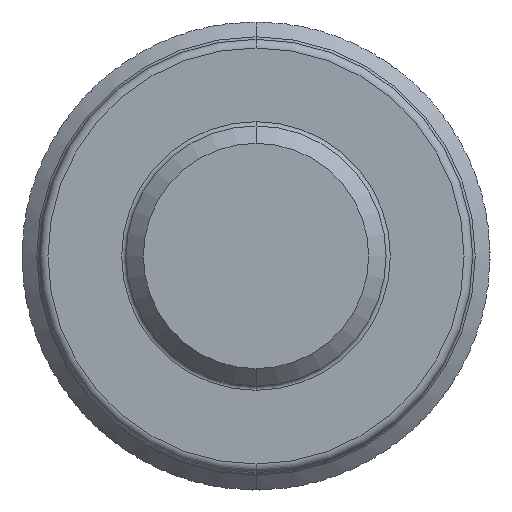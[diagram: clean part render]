
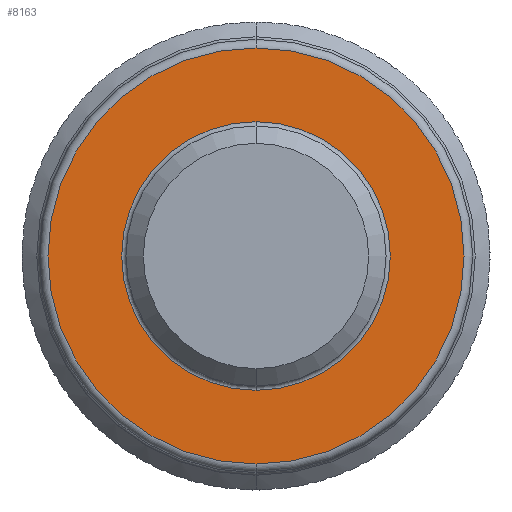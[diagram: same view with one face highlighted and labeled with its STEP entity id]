
A CAD part, front view. The second image highlights one B-rep face of the part: STEP entity #8163.
In plain terms, the highlighted planar face has unit normal (0, -1, 0).
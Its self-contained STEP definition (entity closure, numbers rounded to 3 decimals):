
#268 = DIRECTION ( 'NONE',  ( 0., -1., 0. ) ) ;
#270 = CARTESIAN_POINT ( 'NONE',  ( 0., -3., 2.4 ) ) ;
#497 = EDGE_CURVE ( 'NONE', #1748, #3590, #8521, .T. ) ;
#602 = AXIS2_PLACEMENT_3D ( 'NONE', #2908, #4521, #9182 ) ;
#1132 = DIRECTION ( 'NONE',  ( 0., -1., 0. ) ) ;
#1434 = ORIENTED_EDGE ( 'NONE', *, *, #7921, .T. ) ;
#1748 = VERTEX_POINT ( 'NONE', #4438 ) ;
#1784 = CARTESIAN_POINT ( 'NONE',  ( 0., -3., 0. ) ) ;
#1981 = CARTESIAN_POINT ( 'NONE',  ( 0., -3., 1.55 ) ) ;
#2143 = CARTESIAN_POINT ( 'NONE',  ( 1.5, -3., 0. ) ) ;
#2908 = CARTESIAN_POINT ( 'NONE',  ( 0., -3., 0. ) ) ;
#2951 = DIRECTION ( 'NONE',  ( 0., 0., -1. ) ) ;
#3384 = CARTESIAN_POINT ( 'NONE',  ( 0., -3., -2.4 ) ) ;
#3396 = DIRECTION ( 'NONE',  ( 0., 0., -1. ) ) ;
#3446 = DIRECTION ( 'NONE',  ( 0., 0., -1. ) ) ;
#3590 = VERTEX_POINT ( 'NONE', #1981 ) ;
#3634 = EDGE_CURVE ( 'NONE', #3590, #1748, #8651, .T. ) ;
#4121 = EDGE_LOOP ( 'NONE', ( #4593, #4810 ) ) ;
#4285 = FACE_BOUND ( 'NONE', #4121, .T. ) ;
#4378 = CIRCLE ( 'NONE', #6954, 2.4 ) ;
#4407 = DIRECTION ( 'NONE',  ( 0., 1., 0. ) ) ;
#4438 = CARTESIAN_POINT ( 'NONE',  ( 0., -3., -1.55 ) ) ;
#4521 = DIRECTION ( 'NONE',  ( 0., 1., 0. ) ) ;
#4593 = ORIENTED_EDGE ( 'NONE', *, *, #497, .T. ) ;
#4810 = ORIENTED_EDGE ( 'NONE', *, *, #3634, .T. ) ;
#6150 = AXIS2_PLACEMENT_3D ( 'NONE', #8207, #1132, #3446 ) ;
#6456 = DIRECTION ( 'NONE',  ( 0., -1., 0. ) ) ;
#6643 = CIRCLE ( 'NONE', #6150, 2.4 ) ;
#6693 = EDGE_LOOP ( 'NONE', ( #6985, #1434 ) ) ;
#6737 = DIRECTION ( 'NONE',  ( 0., 0., -1. ) ) ;
#6946 = VERTEX_POINT ( 'NONE', #3384 ) ;
#6954 = AXIS2_PLACEMENT_3D ( 'NONE', #1784, #268, #3396 ) ;
#6985 = ORIENTED_EDGE ( 'NONE', *, *, #7849, .T. ) ;
#7208 = PLANE ( 'NONE',  #9721 ) ;
#7334 = CARTESIAN_POINT ( 'NONE',  ( 0., -3., 0. ) ) ;
#7849 = EDGE_CURVE ( 'NONE', #6946, #8363, #4378, .T. ) ;
#7921 = EDGE_CURVE ( 'NONE', #8363, #6946, #6643, .T. ) ;
#8163 = ADVANCED_FACE ( 'NONE', ( #4285, #8794 ), #7208, .T. ) ;
#8207 = CARTESIAN_POINT ( 'NONE',  ( 0., -3., 0. ) ) ;
#8363 = VERTEX_POINT ( 'NONE', #270 ) ;
#8521 = CIRCLE ( 'NONE', #602, 1.55 ) ;
#8651 = CIRCLE ( 'NONE', #9140, 1.55 ) ;
#8794 = FACE_OUTER_BOUND ( 'NONE', #6693, .T. ) ;
#9140 = AXIS2_PLACEMENT_3D ( 'NONE', #7334, #4407, #6737 ) ;
#9182 = DIRECTION ( 'NONE',  ( 0., 0., -1. ) ) ;
#9721 = AXIS2_PLACEMENT_3D ( 'NONE', #2143, #6456, #2951 ) ;
